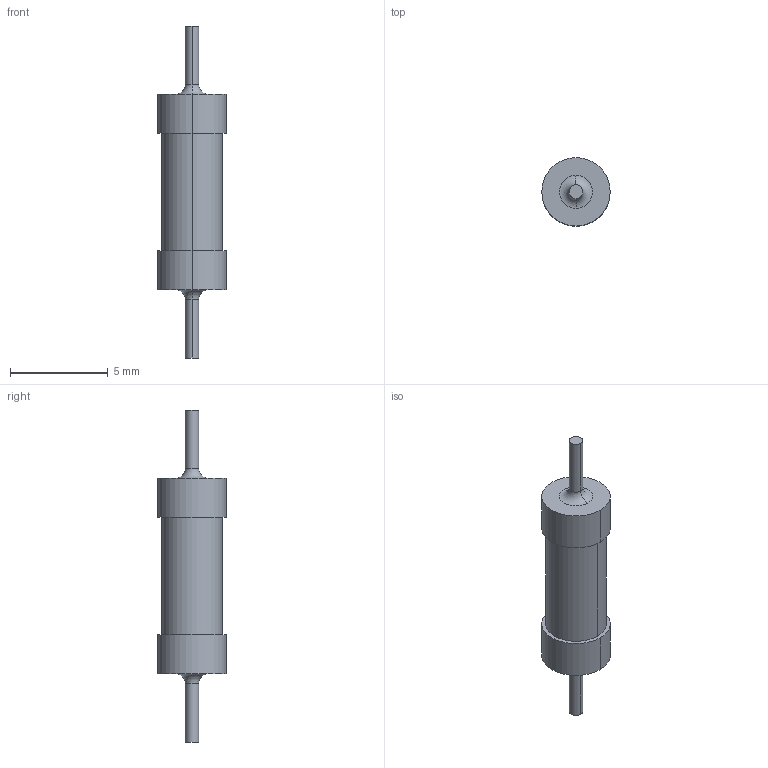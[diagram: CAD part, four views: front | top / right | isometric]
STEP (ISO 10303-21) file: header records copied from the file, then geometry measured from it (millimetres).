
FILE_DESCRIPTION((''),'2;1');
FILE_NAME('C-2-1625886-1','2021-02-15T08:38:30',('workeradm'),('TE Connectivity Ltd.'),'CREO PARAMETRIC BY PTC INC, 2019292','CREO PARAMETRIC BY PTC INC, 2019292','');
FILE_SCHEMA(('AUTOMOTIVE_DESIGN { 1 0 10303 214 1 1 1 1 }'));
Length unit declared in the file: millimetre
Products named in the file (1): C-2-1625886-1
Bounding box: 3.5 x 3.5 x 17 mm (x, y, z)
Volume: 86.8 mm3; surface area: 140.5 mm2
Topology: 1 solids, 1 shells, 20 faces, 38 edges, 24 vertices
Faces by surface type: cylinder 10, plane 6, torus 4
Entity records: 882 total; most frequent: COLOUR_RGB 126, DIRECTION 106, CARTESIAN_POINT 84, ORIENTED_EDGE 76, AXIS2_PLACEMENT_3D 48, PROPERTY_DEFINITION 39, EDGE_CURVE 38, REPRESENTATION 38
